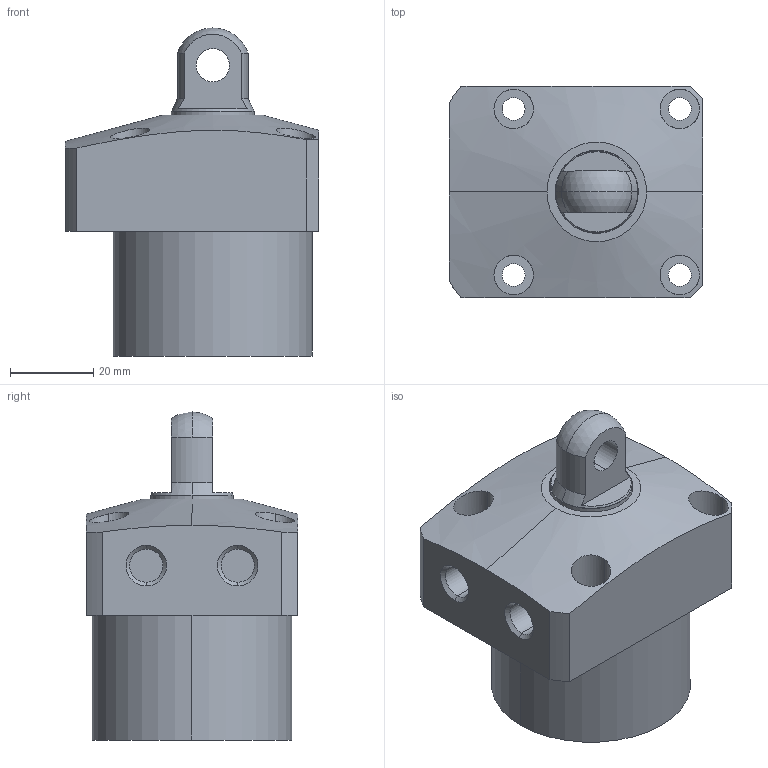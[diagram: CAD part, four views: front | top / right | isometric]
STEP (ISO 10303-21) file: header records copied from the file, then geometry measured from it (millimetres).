
FILE_DESCRIPTION (( 'STEP AP203' ), '1' );
FILE_NAME ('CLL-0480-CP-020.STEP', '2017-05-09T02:39:54', ( '' ), ( '' ), 'SwSTEP 2.0', 'SolidWorks 2015', '' );
FILE_SCHEMA (( 'CONFIG_CONTROL_DESIGN' ));
Length unit declared in the file: millimetre
Products named in the file (1): CLL-0480-CP-020
Bounding box: 61 x 51 x 79 mm (x, y, z)
Volume: 130029.6 mm3; surface area: 19175.6 mm2
Topology: 1 solids, 1 shells, 67 faces, 157 edges, 103 vertices
Faces by surface type: cylinder 35, plane 22, cone 8, sphere 2
Entity records: 2360 total; most frequent: CARTESIAN_POINT 682, DIRECTION 351, ORIENTED_EDGE 314, EDGE_CURVE 157, AXIS2_PLACEMENT_3D 146, VERTEX_POINT 103, EDGE_LOOP 88, CIRCLE 78
